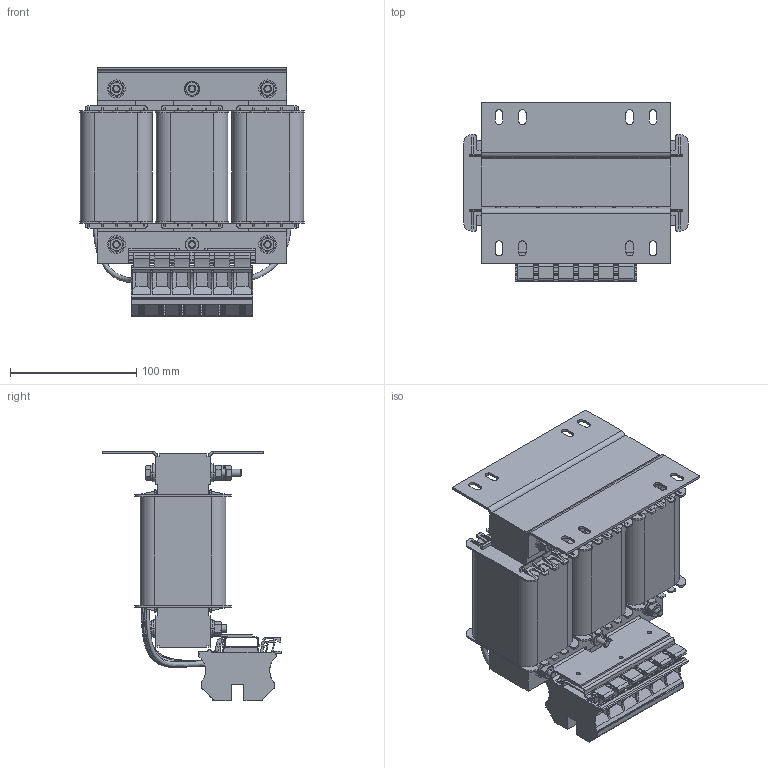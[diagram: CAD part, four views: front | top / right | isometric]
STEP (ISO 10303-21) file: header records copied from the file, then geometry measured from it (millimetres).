
FILE_DESCRIPTION((''),'2;1');
FILE_NAME('PRT0012','2021-12-16T',('ed7336'),(''),'CREO PARAMETRIC BY PTC INC, 2018220','CREO PARAMETRIC BY PTC INC, 2018220','');
FILE_SCHEMA(('AUTOMOTIVE_DESIGN { 1 0 10303 214 1 1 1 1 }'));
Products named in the file (1): PRT0012
Bounding box: 178 x 142.3 x 197.7 mm (x, y, z)
Volume: 1617848.6 mm3; surface area: 338465.6 mm2
Topology: 1 solids, 1 shells, 3346 faces, 9448 edges, 6158 vertices
Faces by surface type: plane 2211, cylinder 1001, cone 122, bspline 12
Entity records: 110599 total; most frequent: CARTESIAN_POINT 21965, ORIENTED_EDGE 18896, DIRECTION 18316, EDGE_CURVE 9448, VECTOR 6744, LINE 6744, VERTEX_POINT 6158, AXIS2_PLACEMENT_3D 5786
